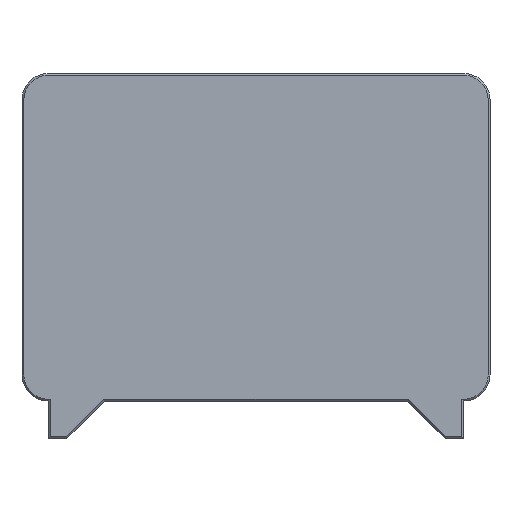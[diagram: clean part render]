
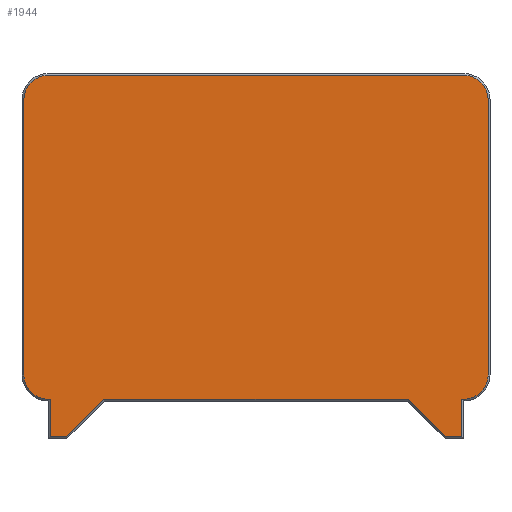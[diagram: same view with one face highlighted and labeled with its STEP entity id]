
A CAD part, left-side view. The second image highlights one B-rep face of the part: STEP entity #1944.
In plain terms, the highlighted planar face has unit normal (-1, 0, 0).
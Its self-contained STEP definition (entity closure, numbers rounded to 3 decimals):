
#68=PLANE('',#2102);
#168=FACE_OUTER_BOUND('',#282,.T.);
#282=EDGE_LOOP('',(#1581,#1582,#1583,#1584,#1585,#1586,#1587,#1588,#1589,
#1590,#1591,#1592,#1593,#1594));
#370=CIRCLE('',#2072,13.);
#371=CIRCLE('',#2081,13.);
#374=CIRCLE('',#2085,13.);
#376=CIRCLE('',#2090,13.);
#487=LINE('',#3099,#703);
#491=LINE('',#3121,#707);
#492=LINE('',#3124,#708);
#497=LINE('',#3133,#713);
#498=LINE('',#3136,#714);
#501=LINE('',#3142,#717);
#505=LINE('',#3148,#721);
#507=LINE('',#3153,#723);
#511=LINE('',#3169,#727);
#515=LINE('',#3177,#731);
#703=VECTOR('',#2405,10.);
#707=VECTOR('',#2417,10.);
#708=VECTOR('',#2420,10.);
#713=VECTOR('',#2427,10.);
#714=VECTOR('',#2430,10.);
#717=VECTOR('',#2435,10.);
#721=VECTOR('',#2441,10.);
#723=VECTOR('',#2445,10.);
#727=VECTOR('',#2463,10.);
#731=VECTOR('',#2469,10.);
#931=VERTEX_POINT('',#3096);
#932=VERTEX_POINT('',#3098);
#935=VERTEX_POINT('',#3108);
#936=VERTEX_POINT('',#3110);
#938=VERTEX_POINT('',#3119);
#939=VERTEX_POINT('',#3123);
#942=VERTEX_POINT('',#3131);
#943=VERTEX_POINT('',#3135);
#945=VERTEX_POINT('',#3141);
#948=VERTEX_POINT('',#3151);
#949=VERTEX_POINT('',#3156);
#952=VERTEX_POINT('',#3164);
#953=VERTEX_POINT('',#3168);
#956=VERTEX_POINT('',#3175);
#1141=EDGE_CURVE('',#931,#932,#487,.T.);
#1145=EDGE_CURVE('',#935,#936,#370,.T.);
#1149=EDGE_CURVE('',#938,#931,#491,.T.);
#1150=EDGE_CURVE('',#936,#939,#492,.T.);
#1155=EDGE_CURVE('',#942,#938,#497,.T.);
#1156=EDGE_CURVE('',#939,#943,#498,.T.);
#1159=EDGE_CURVE('',#943,#945,#501,.T.);
#1163=EDGE_CURVE('',#945,#942,#505,.T.);
#1165=EDGE_CURVE('',#948,#935,#507,.T.);
#1167=EDGE_CURVE('',#932,#949,#371,.T.);
#1172=EDGE_CURVE('',#952,#948,#374,.T.);
#1173=EDGE_CURVE('',#949,#953,#511,.T.);
#1177=EDGE_CURVE('',#956,#952,#515,.T.);
#1180=EDGE_CURVE('',#953,#956,#376,.T.);
#1581=ORIENTED_EDGE('',*,*,#1145,.F.);
#1582=ORIENTED_EDGE('',*,*,#1165,.F.);
#1583=ORIENTED_EDGE('',*,*,#1172,.F.);
#1584=ORIENTED_EDGE('',*,*,#1177,.F.);
#1585=ORIENTED_EDGE('',*,*,#1180,.F.);
#1586=ORIENTED_EDGE('',*,*,#1173,.F.);
#1587=ORIENTED_EDGE('',*,*,#1167,.F.);
#1588=ORIENTED_EDGE('',*,*,#1141,.F.);
#1589=ORIENTED_EDGE('',*,*,#1149,.F.);
#1590=ORIENTED_EDGE('',*,*,#1155,.F.);
#1591=ORIENTED_EDGE('',*,*,#1163,.F.);
#1592=ORIENTED_EDGE('',*,*,#1159,.F.);
#1593=ORIENTED_EDGE('',*,*,#1156,.F.);
#1594=ORIENTED_EDGE('',*,*,#1150,.F.);
#1944=ADVANCED_FACE('',(#168),#68,.T.);
#2072=AXIS2_PLACEMENT_3D('',#3111,#2411,#2412);
#2081=AXIS2_PLACEMENT_3D('',#3157,#2449,#2450);
#2085=AXIS2_PLACEMENT_3D('',#3166,#2459,#2460);
#2090=AXIS2_PLACEMENT_3D('',#3181,#2475,#2476);
#2102=AXIS2_PLACEMENT_3D('',#3220,#2514,#2515);
#2405=DIRECTION('',(0.,0.,1.));
#2411=DIRECTION('center_axis',(1.,0.,0.));
#2412=DIRECTION('ref_axis',(0.,-0.707,-0.707));
#2417=DIRECTION('',(0.,1.,0.));
#2420=DIRECTION('',(0.,0.,-1.));
#2427=DIRECTION('',(0.,0.707,-0.707));
#2430=DIRECTION('',(0.,1.,0.));
#2435=DIRECTION('',(0.,0.707,0.707));
#2441=DIRECTION('',(0.,1.,0.));
#2445=DIRECTION('',(0.,0.,-1.));
#2449=DIRECTION('center_axis',(1.,0.,0.));
#2450=DIRECTION('ref_axis',(0.,0.707,-0.707));
#2459=DIRECTION('center_axis',(1.,0.,0.));
#2460=DIRECTION('ref_axis',(0.,-0.707,0.707));
#2463=DIRECTION('',(0.,0.,1.));
#2469=DIRECTION('',(0.,-1.,0.));
#2475=DIRECTION('center_axis',(1.,0.,0.));
#2476=DIRECTION('ref_axis',(0.,0.707,0.707));
#2514=DIRECTION('center_axis',(-1.,0.,0.));
#2515=DIRECTION('ref_axis',(0.,0.,1.));
#3096=CARTESIAN_POINT('',(-110.,110.,11.));
#3098=CARTESIAN_POINT('',(-110.,110.,31.039));
#3099=CARTESIAN_POINT('',(-110.,110.,73.75));
#3108=CARTESIAN_POINT('',(-110.,-124.,44.));
#3110=CARTESIAN_POINT('',(-110.,-110.,31.039));
#3111=CARTESIAN_POINT('Origin',(-110.,-111.,44.));
#3119=CARTESIAN_POINT('',(-110.,101.414,11.));
#3121=CARTESIAN_POINT('',(-110.,62.5,11.));
#3123=CARTESIAN_POINT('',(-110.,-110.,11.));
#3124=CARTESIAN_POINT('',(-110.,-110.,73.75));
#3131=CARTESIAN_POINT('',(-110.,81.414,31.));
#3133=CARTESIAN_POINT('',(-110.,39.582,72.832));
#3135=CARTESIAN_POINT('',(-110.,-101.414,11.));
#3136=CARTESIAN_POINT('',(-110.,62.5,11.));
#3141=CARTESIAN_POINT('',(-110.,-81.414,31.));
#3142=CARTESIAN_POINT('',(-110.,-49.582,62.832));
#3148=CARTESIAN_POINT('',(-110.,-40.5,31.));
#3151=CARTESIAN_POINT('',(-110.,-124.,191.));
#3153=CARTESIAN_POINT('',(-110.,-124.,73.75));
#3156=CARTESIAN_POINT('',(-110.,124.,44.));
#3157=CARTESIAN_POINT('Origin',(-110.,111.,44.));
#3164=CARTESIAN_POINT('',(-110.,-111.,204.));
#3166=CARTESIAN_POINT('Origin',(-110.,-111.,191.));
#3168=CARTESIAN_POINT('',(-110.,124.,191.));
#3169=CARTESIAN_POINT('',(-110.,124.,161.25));
#3175=CARTESIAN_POINT('',(-110.,111.,204.));
#3177=CARTESIAN_POINT('',(-110.,-62.5,204.));
#3181=CARTESIAN_POINT('Origin',(-110.,111.,191.));
#3220=CARTESIAN_POINT('Origin',(-110.,0.,117.5));
